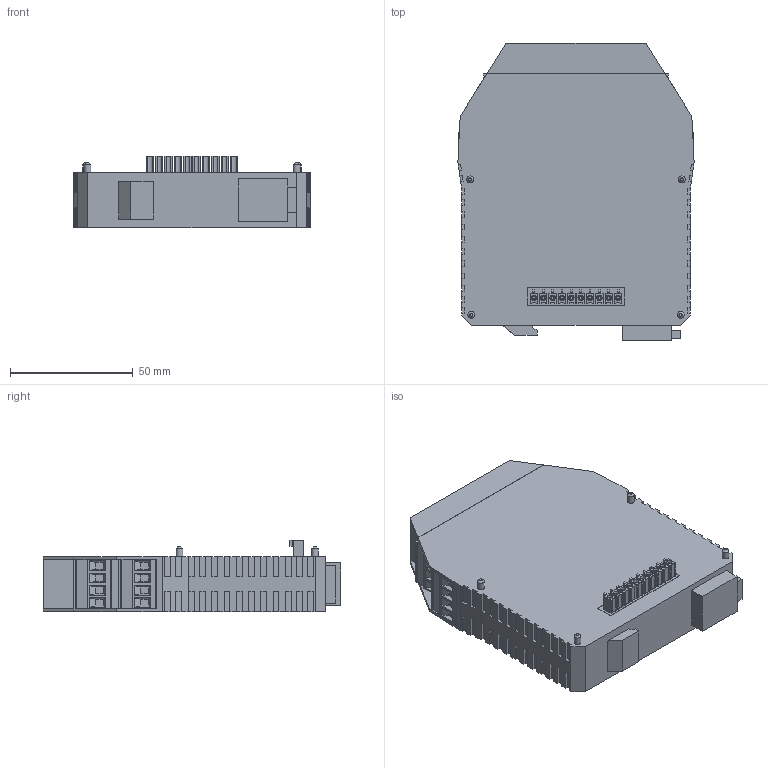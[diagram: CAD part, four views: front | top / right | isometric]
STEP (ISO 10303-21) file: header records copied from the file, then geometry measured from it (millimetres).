
FILE_DESCRIPTION(/* description */ (''),/* implementation_level */ '2;1');
FILE_NAME(/* name */ 'R1_190_0038_0_E_AA.stp',/* time_stamp */ '2016-06-08T11:26:11+02:00',/* author */ (''),/* organization */ (''),/* preprocessor_version */ 'ST-DEVELOPER v15',/* originating_system */ 'SIEMENS PLM Software NX 9.0',/* authorisation */ '');
FILE_SCHEMA (('AP203_CONFIGURATION_CONTROLLED_3D_DESIGN_OF_MECHANICAL_PARTS_AND_ASSEMBLIES_MIM_LF { 1 0 10303 403 2 1 2}'));
Length unit declared in the file: millimetre
Products named in the file (1): R1_190_0038_0_E_AA
Bounding box: 96.4 x 121.35 x 29.2 mm (x, y, z)
Volume: 226139 mm3; surface area: 39958.8 mm2
Topology: 1 solids, 1 shells, 1070 faces, 2791 edges, 1821 vertices
Faces by surface type: plane 988, cylinder 58, cone 24
Full cylindrical faces by diameter (mm): 1.2 x10, 2.8 x8, 4 x16
Entity records: 39205 total; most frequent: CARTESIAN_POINT 5591, ORIENTED_EDGE 5432, DIRECTION 5046, EDGE_CURVE 2716, LINE 2528, VECTOR 2528, VERTEX_POINT 1804, AXIS2_PLACEMENT_3D 1259
